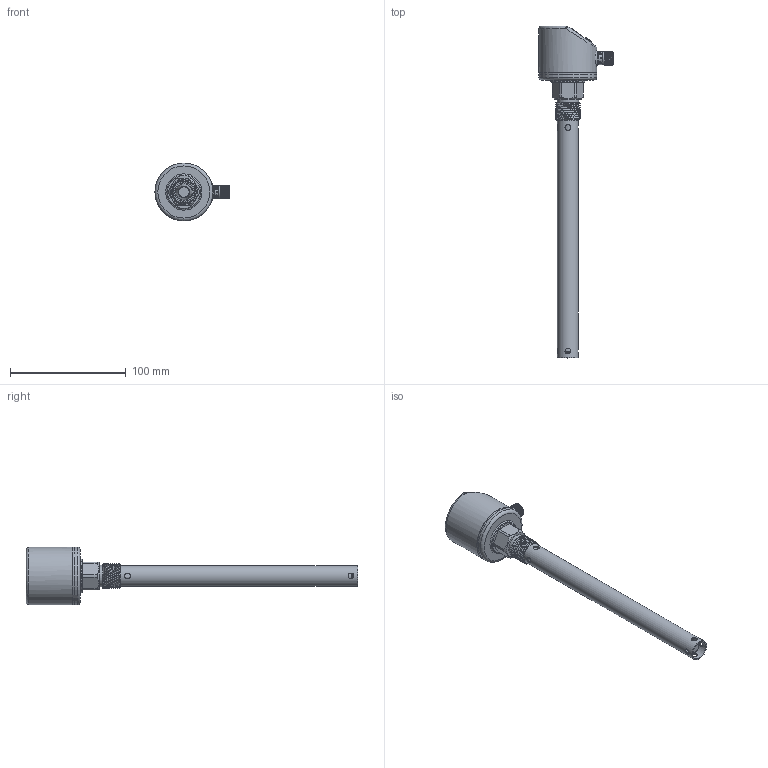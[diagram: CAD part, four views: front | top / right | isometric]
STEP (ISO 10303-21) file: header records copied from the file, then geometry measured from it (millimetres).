
FILE_DESCRIPTION (( 'STEP AP214' ), '1' );
FILE_NAME ('1-2数显电容-200（同轴）.STEP', '2025-03-11T05:45:36', ( '' ), ( '' ), 'SwSTEP 2.0', 'SolidWorks 2020', '' );
FILE_SCHEMA (( 'AUTOMOTIVE_DESIGN' ));
Length unit declared in the file: millimetre
Products named in the file (9): 揤薯珆尨欶; 抻芛ㄗ蟀哿講ㄘ; 恦謫抻芛5; 肮粣奪; 偌瑩簽; 1-2数显电容-200（同轴）; 揤薯奻裔; 滅阨諉芛褲极1; PVC躇猾菜
Assembly tree (10 placements, depth 2):
  1-2数显电容-200（同轴）
    揤薯奻裔
    揤薯珆尨欶
    滅阨諉芛褲极1
    偌瑩簽  x3
    PVC躇猾菜
    恦謫抻芛5
    抻芛ㄗ蟀哿講ㄘ
    肮粣奪
Bounding box: 64 x 286.5 x 50 mm (x, y, z)
Volume: 52886.7 mm3; surface area: 60171.5 mm2
Topology: 10 solids, 10 shells, 306 faces, 720 edges, 466 vertices
Faces by surface type: plane 126, cylinder 115, cone 39, bspline 11, torus 11, sphere 4
Full cylindrical faces by diameter (mm): 1 x4, 1.2 x3, 1.8 x1, 2 x3, 2.5 x4, 2.8 x1, 4.3 x3, 4.5 x6, 5 x8, 6 x1, 7.2 x1, 8 x1, 8.5 x1, 9.75 x1, 10 x1, 10.49 x1, 10.5 x1, 10.8 x1, 10.9 x1, 11 x2, 12 x1, 16 x1, 18 x1, 18.5 x1, 21 x1, 29.24 x1, 35 x1, 43.9 x1, 45.4 x1, 45.6 x2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
Entity records: 13745 total; most frequent: CARTESIAN_POINT 7166, DIRECTION 1284, ORIENTED_EDGE 1072, EDGE_CURVE 536, AXIS2_PLACEMENT_3D 523, EDGE_LOOP 458, VERTEX_POINT 398, FACE_OUTER_BOUND 344
